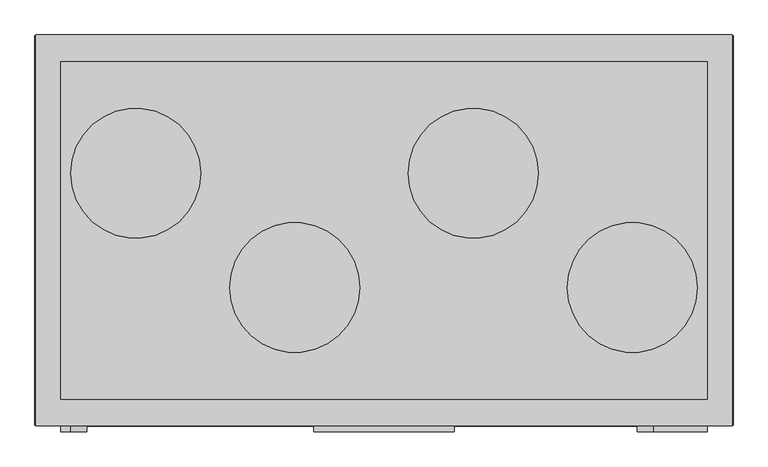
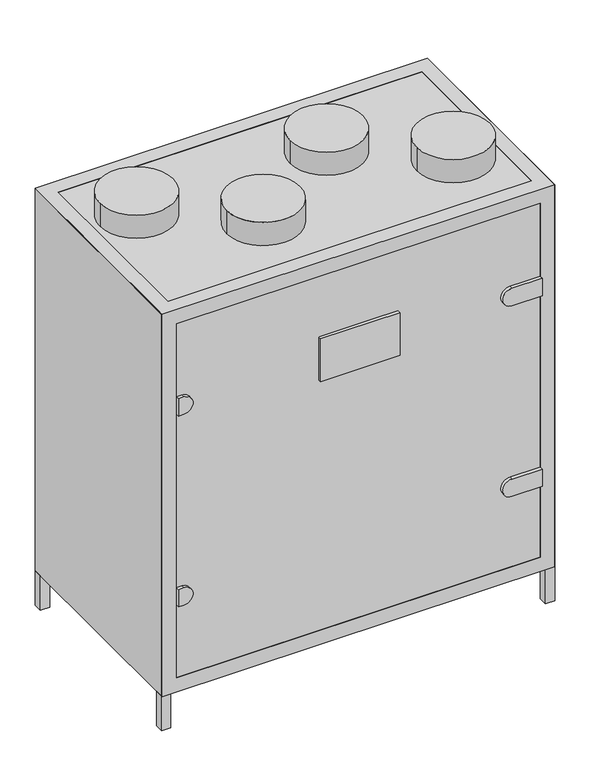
"""IFC4 building model written with IfcOpenShell, lengths in millimetres: proxy geometry, AVS 400...1600-V-RC(RG) : AVS 700-V-RC."""

from ifc_helpers import new_model, si_unit, point, frame, frame_2d, origin, origin_with_axes, place, context, project, spatial, polyline, circle_curve, trimmed, segment, composite_curve, outline, extrude, faceted_brep, source, transform, mapped, element, save


def mechanical_equipment_59593223(model_context):
    return source(origin(), model_context, "Body", "SolidModel", [
        extrude(outline(polyline([(512.5, 300.0), (537.5, 300.0), (537.5, 275.0), (512.5, 275.0), (512.5, 300.0)])), origin_with_axes(), (0.0, 0.0, 1.0), 100.0),
        extrude(outline(polyline([(512.5, -300.0), (512.5, -275.0), (537.5, -275.0), (537.5, -300.0), (512.5, -300.0)])), origin_with_axes(), (0.0, 0.0, 1.0), 100.0),
        extrude(outline(polyline([(-537.5, 275.0), (-537.5, 300.0), (-512.5, 300.0), (-512.5, 275.0), (-537.5, 275.0)])), origin_with_axes(), (0.0, 0.0, 1.0), 100.0),
        extrude(outline(polyline([(-537.5, -275.0), (-512.5, -275.0), (-512.5, -300.0), (-537.5, -300.0), (-537.5, -275.0)])), origin_with_axes(), (0.0, 0.0, 1.0), 100.0),
        faceted_brep([(536.5, 301.0, 1204.0), (-536.5, 301.0, 1204.0), (-536.5, -301.0, 1204.0), (536.5, -301.0, 1204.0), (-497.5, 260.0, 1204.0), (20.0, 260.0, 1204.0), (497.5, 260.0, 1204.0), (497.5, -260.0, 1204.0), (20.0, -260.0, 1204.0), (-497.5, -260.0, 1204.0), (536.5, 301.0, 99.0), (536.5, -301.0, 99.0), (-536.5, -301.0, 99.0), (-536.5, 301.0, 99.0), (20.0, 260.0, 99.0), (-497.5, 260.0, 99.0), (-497.5, -260.0, 99.0), (20.0, -260.0, 99.0), (497.5, -260.0, 99.0), (497.5, 260.0, 99.0), (20.0, 301.0, 1163.0), (-497.5, 301.0, 1163.0), (-497.5, 301.0, 140.0), (20.0, 301.0, 140.0), (497.5, 301.0, 140.0), (497.5, 301.0, 1163.0), (-536.5, -260.0, 1163.0), (-536.5, -260.0, 140.0), (-536.5, 260.0, 140.0), (-536.5, 260.0, 1163.0), (-497.5, -301.0, 1163.0), (20.0, -301.0, 1163.0), (497.5, -301.0, 1163.0), (497.5, -301.0, 140.0), (20.0, -301.0, 140.0), (-497.5, -301.0, 140.0), (536.5, -260.0, 140.0), (536.5, -260.0, 1163.0), (536.5, 260.0, 1163.0), (536.5, 260.0, 140.0), (-497.5, 260.0, 1163.0), (20.0, 260.0, 1163.0), (20.0, 260.0, 140.0), (-497.5, 260.0, 140.0), (20.0, -260.0, 1163.0), (-497.5, -260.0, 1163.0), (-497.5, -260.0, 140.0), (20.0, -260.0, 140.0), (497.5, 260.0, 1163.0), (497.5, -260.0, 1163.0), (497.5, -260.0, 140.0), (497.5, 260.0, 140.0)], [[[0, 1, 2, 3], [4, 5, 6, 7, 8, 9]], [[10, 11, 12, 13], [14, 15, 16, 17, 18, 19]], [[1, 0, 10, 13], [20, 21, 22, 23, 24, 25]], [[2, 1, 13, 12], [26, 27, 28, 29]], [[3, 2, 12, 11], [30, 31, 32, 33, 34, 35]], [[0, 3, 11, 10], [36, 37, 38, 39]], [[5, 4, 40, 41]], [[15, 14, 42, 43]], [[9, 8, 44, 45]], [[17, 16, 46, 47]], [[7, 6, 48, 49]], [[19, 18, 50, 51]], [[32, 49, 50, 33]], [[48, 25, 24, 51]], [[30, 45, 44, 31]], [[20, 41, 40, 21]], [[46, 35, 34, 47]], [[42, 23, 22, 43]], [[26, 45, 46, 27]], [[49, 37, 36, 50]], [[50, 36, 39, 51]], [[43, 28, 27, 46]], [[51, 39, 38, 48]], [[40, 29, 28, 43]], [[37, 49, 48, 38]], [[29, 40, 45, 26]], [[4, 9, 45, 40]], [[16, 15, 43, 46]], [[45, 30, 35, 46]], [[21, 40, 43, 22]], [[6, 5, 41, 48]], [[14, 19, 51, 42]], [[8, 7, 49, 44]], [[18, 17, 47, 50]], [[49, 32, 31, 44]], [[41, 20, 25, 48]], [[33, 50, 47, 34]], [[23, 42, 51, 24]]]),
        extrude(outline(polyline([(-537.5, 300.0), (537.5, 300.0), (537.5, -300.0), (-537.5, -300.0), (-537.5, 300.0)])), frame((0.0, 0.0, 100.0), z_axis=(0.0, 0.0, 1.0), x_axis=(1.0, 0.0, 0.0)), (0.0, 0.0, 1.0), 1103.0),
        extrude(outline(composite_curve([segment(trimmed(circle_curve(frame_2d((-382.5, 88.0)), 100.0), [point((-282.5, 88.0))], [point((-482.5, 88.0))], False, "CARTESIAN"), True, "CONTINUOUS"), segment(trimmed(circle_curve(frame_2d((-382.5, 88.0)), 100.0), [point((-482.5, 88.0))], [point((-282.5, 88.0))], False, "CARTESIAN"), True, "CONTINUOUS")], self_intersect=False)), frame((0.0, 0.0, 1204.0), z_axis=(0.0, 0.0, 1.0), x_axis=(1.0, 0.0, 0.0)), (0.0, 0.0, 1.0), 67.0),
        extrude(outline(composite_curve([segment(trimmed(circle_curve(frame_2d((-137.5, -88.0)), 100.0), [point((-37.5, -88.0))], [point((-237.5, -88.0))], False, "CARTESIAN"), True, "CONTINUOUS"), segment(trimmed(circle_curve(frame_2d((-137.5, -88.0)), 100.0), [point((-237.5, -88.0))], [point((-37.5, -88.0))], False, "CARTESIAN"), True, "CONTINUOUS")], self_intersect=False)), frame((0.0, 0.0, 1204.0), z_axis=(0.0, 0.0, 1.0), x_axis=(1.0, 0.0, 0.0)), (0.0, 0.0, 1.0), 67.0),
        extrude(outline(composite_curve([segment(trimmed(circle_curve(frame_2d((137.5, 88.0)), 100.0), [point((237.5, 88.0))], [point((37.5, 88.0))], False, "CARTESIAN"), True, "CONTINUOUS"), segment(trimmed(circle_curve(frame_2d((137.5, 88.0)), 100.0), [point((37.5, 88.0))], [point((237.5, 88.0))], False, "CARTESIAN"), True, "CONTINUOUS")], self_intersect=False)), frame((0.0, 0.0, 1204.0), z_axis=(0.0, 0.0, 1.0), x_axis=(1.0, 0.0, 0.0)), (0.0, 0.0, 1.0), 67.0),
        extrude(outline(composite_curve([segment(trimmed(circle_curve(frame_2d((382.5, -88.0)), 100.0), [point((482.5, -88.0))], [point((282.5, -88.0))], False, "CARTESIAN"), True, "CONTINUOUS"), segment(trimmed(circle_curve(frame_2d((382.5, -88.0)), 100.0), [point((282.5, -88.0))], [point((482.5, -88.0))], False, "CARTESIAN"), True, "CONTINUOUS")], self_intersect=False)), frame((0.0, 0.0, 1204.0), z_axis=(0.0, 0.0, 1.0), x_axis=(1.0, 0.0, 0.0)), (0.0, 0.0, 1.0), 67.0),
        extrude(outline(composite_curve([segment(polyline([(952.25, -482.7895396), (952.25, -497.5), (902.25, -497.5), (902.25, -482.7895396)]), True, "CONTINUOUS"), segment(trimmed(circle_curve(frame_2d((927.25, -482.7895396)), 25.0), [point((902.25, -482.7895396))], [point((952.25, -482.7895396))], False, "CARTESIAN"), True, "CONTINUOUS")], self_intersect=False)), frame((0.0, -310.0, 0.0), z_axis=(0.0, 1.0, 0.0), x_axis=(0.0, 0.0, 1.0)), (0.0, 0.0, 1.0), 10.0),
        extrude(outline(composite_curve([segment(polyline([(400.75, -482.7895396), (400.75, -497.5), (350.75, -497.5), (350.75, -482.7895396)]), True, "CONTINUOUS"), segment(trimmed(circle_curve(frame_2d((375.75, -482.7895396)), 25.0), [point((350.75, -482.7895396))], [point((400.75, -482.7895396))], False, "CARTESIAN"), True, "CONTINUOUS")], self_intersect=False)), frame((0.0, -310.0, 0.0), z_axis=(0.0, 1.0, 0.0), x_axis=(0.0, 0.0, 1.0)), (0.0, 0.0, 1.0), 10.0),
        extrude(outline(polyline([(108.5, -310.0), (-108.5, -310.0), (-108.5, -300.0), (108.5, -300.0), (108.5, -310.0)])), frame((0.0, 0.0, 865.5), z_axis=(0.0, 0.0, 1.0), x_axis=(1.0, 0.0, 0.0)), (0.0, 0.0, 1.0), 123.5),
        extrude(outline(composite_curve([segment(trimmed(circle_curve(frame_2d((927.25, 414.7895396)), 25.0), [point((952.25, 414.7895396))], [point((902.25, 414.7895396))], False, "CARTESIAN"), True, "CONTINUOUS"), segment(polyline([(902.25, 414.7895396), (902.25, 497.5), (952.25, 497.5), (952.25, 414.7895396)]), True, "CONTINUOUS")], self_intersect=False)), frame((0.0, -310.0, 0.0), z_axis=(0.0, 1.0, 0.0), x_axis=(0.0, 0.0, 1.0)), (0.0, 0.0, 1.0), 10.0),
        extrude(outline(composite_curve([segment(trimmed(circle_curve(frame_2d((375.75, 414.7895396)), 25.0), [point((400.75, 414.7895396))], [point((350.75, 414.7895396))], False, "CARTESIAN"), True, "CONTINUOUS"), segment(polyline([(350.75, 414.7895396), (350.75, 497.5), (400.75, 497.5), (400.75, 414.7895396)]), True, "CONTINUOUS")], self_intersect=False)), frame((0.0, -310.0, 0.0), z_axis=(0.0, 1.0, 0.0), x_axis=(0.0, 0.0, 1.0)), (0.0, 0.0, 1.0), 10.0),
    ])


if __name__ == "__main__":
    model = new_model("IFC4")
    model_context = context("Model", 3, world=origin())
    ifc_project = project(units=[si_unit("LENGTHUNIT", "METRE", prefix="MILLI")], contexts=[model_context])
    site = spatial("IfcSite", under=ifc_project)
    building = spatial("IfcBuilding", under=site)
    placement = place(None, origin())
    mechanical_equipment_shape = mechanical_equipment_59593223(model_context)
    element("IfcBuildingElementProxy", 1, Name="AVS 400...1600-V-RC(RG) : AVS 700-V-RC", ObjectType="AVS 400...1600-V-RC(RG) : AVS 700-V-RC", at=placement, inside=building, context=model_context, shape_type="MappedRepresentation", body=[
        mapped(mechanical_equipment_shape, transform((0.0, 0.0, 0.0), x_axis=(1.0, 0.0, 0.0), y_axis=(0.0, 1.0, 0.0), z_axis=(0.0, 0.0, 1.0))),
    ])
    save(model, "model.ifc")
